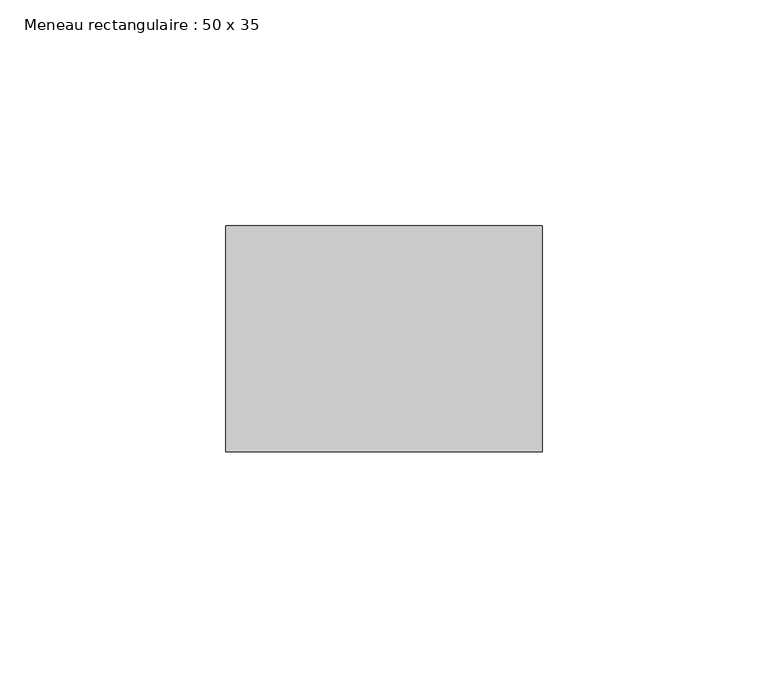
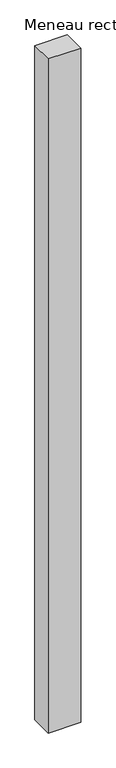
"""IFC4 building model written with IfcOpenShell, lengths in millimetres: member geometry, Meneau rectangulaire : 50 x 35."""

from ifc_helpers import new_model, si_unit, frame, origin, place, context, project, spatial, polyline, outline, extrude, source, transform, mapped, element, save


def meneau_rectangulaire_50_x_35_0b52106f(model_context):
    return source(origin(), model_context, "Body", "SweptSolid", [
        extrude(outline(polyline([(35.0, 0.0), (35.0, -50.0), (-35.0, -50.0), (-35.0, 0.0), (35.0, 0.0)])), frame((0.0, 0.0, -1536.2872498), z_axis=(0.0, 0.0, 1.0), x_axis=(1.0, 0.0, 0.0)), (0.0, 0.0, 1.0), 1536.2872498),
    ])


if __name__ == "__main__":
    model = new_model("IFC4")
    model_context = context("Model", 3, world=origin())
    ifc_project = project(units=[si_unit("LENGTHUNIT", "METRE", prefix="MILLI")], contexts=[model_context])
    site = spatial("IfcSite", under=ifc_project)
    building = spatial("IfcBuilding", under=site)
    placement = place(None, origin())
    meneau_rectangulaire_50_x_35_shape = meneau_rectangulaire_50_x_35_0b52106f(model_context)
    element("IfcMember", 1, ObjectType="Meneau rectangulaire : 50 x 35", at=placement, inside=building, context=model_context, shape_type="MappedRepresentation", body=[
        mapped(meneau_rectangulaire_50_x_35_shape, transform((0.0, 0.0, 0.0), x_axis=(1.0, 0.0, 0.0), y_axis=(0.0, 1.0, 0.0), z_axis=(0.0, 0.0, 1.0))),
    ])
    save(model, "model.ifc")
